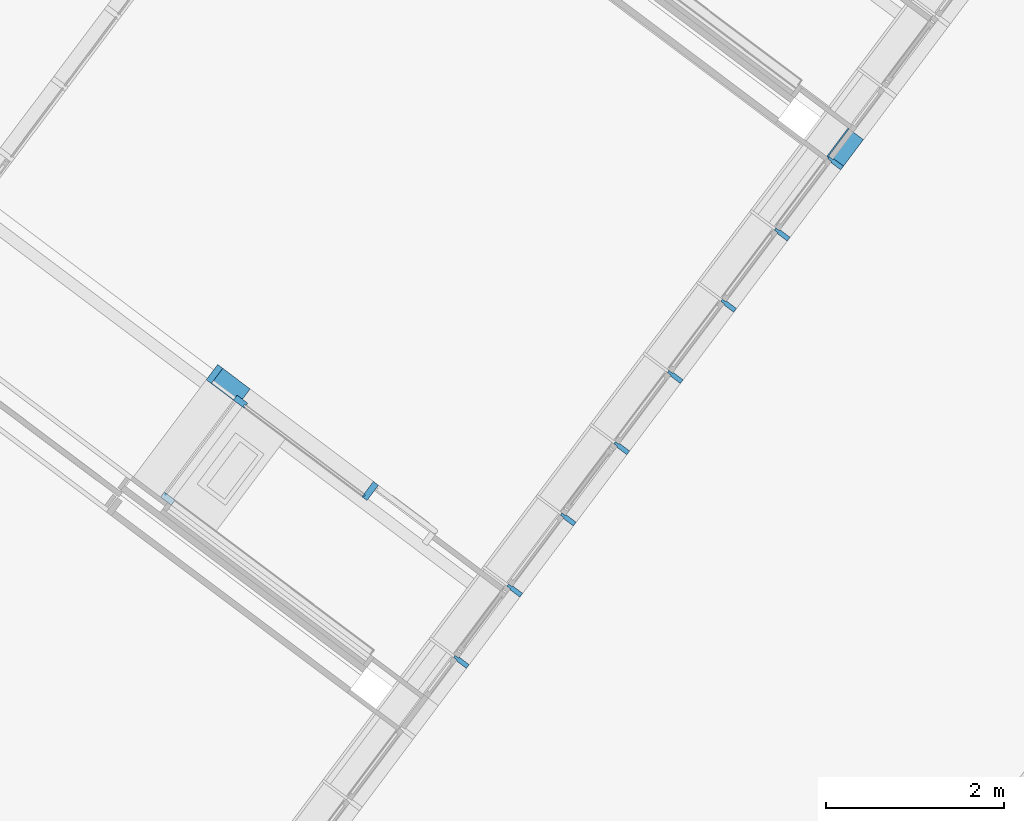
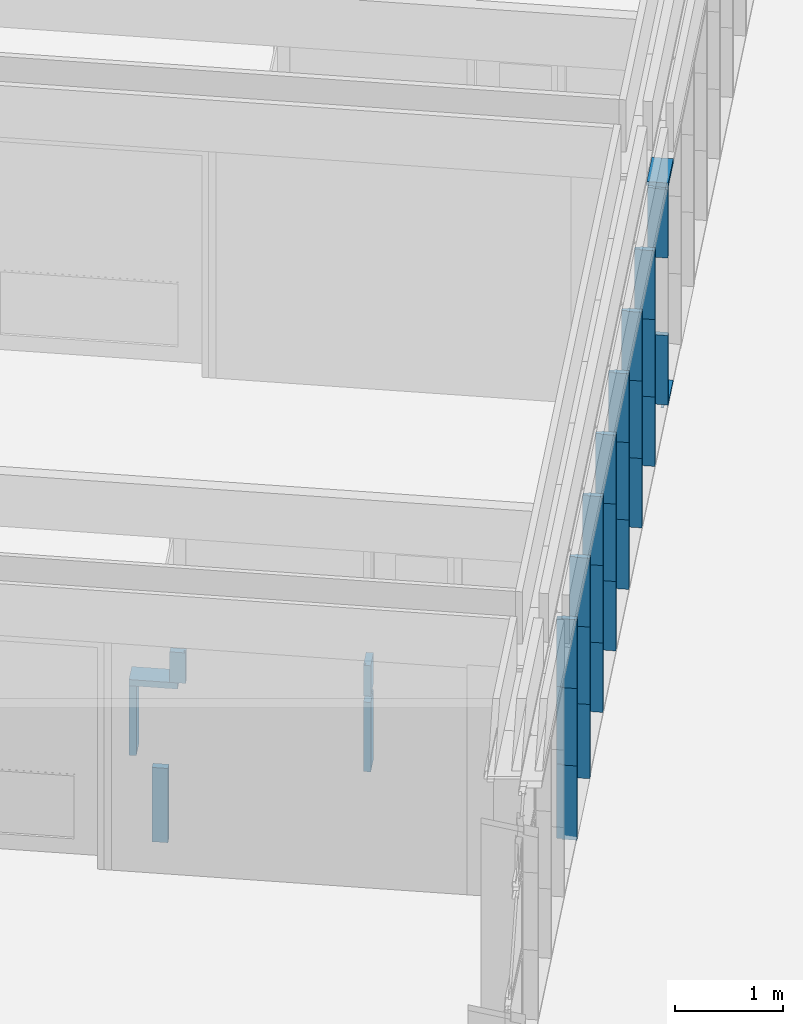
# One storey, part 82 of 243: 31 members, 3 elements without a shape of their own.
"""IFC2X3 building model written with IfcOpenShell, lengths in metres."""

from ifc_helpers import new_model, entity, si_unit, converted_unit, derived_unit, direction, frame, frame_2d, origin, place, context, subcontext, project, spatial, polyline, circle_curve, parameter, trimmed, segment, composite_curve, rectangle, outline, extrude, source, transform, mapped, material, type_object, type_shapes, element, aggregate, save


model = new_model("IFC2X3")

# Units and contexts
model_context = context("Model", 3, precision=1e-05, world=origin(), true_north=direction((6.123031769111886e-17, 1.0)))
body_context = subcontext(model_context, "Body", "Model", "MODEL_VIEW")
ifc_project = project(units=[si_unit("LENGTHUNIT", "METRE"), si_unit("AREAUNIT", "SQUARE_METRE"), si_unit("VOLUMEUNIT", "CUBIC_METRE"), converted_unit("PLANEANGLEUNIT", "DEGREE", entity("IfcRatioMeasure", 0.017453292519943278), si_unit("PLANEANGLEUNIT", "RADIAN"), dimensions=[0, 0, 0, 0, 0, 0, 0]), si_unit("MASSUNIT", "GRAM", prefix="KILO"), derived_unit("MASSDENSITYUNIT", [(si_unit("MASSUNIT", "GRAM", prefix="KILO"), 1), (si_unit("LENGTHUNIT", "METRE"), -3)]), derived_unit("IONCONCENTRATIONUNIT", [(si_unit("MASSUNIT", "GRAM", prefix="KILO"), 1), (si_unit("LENGTHUNIT", "METRE"), -3)]), derived_unit("MOMENTOFINERTIAUNIT", [(si_unit("LENGTHUNIT", "METRE"), 4)]), si_unit("TIMEUNIT", "SECOND"), si_unit("FREQUENCYUNIT", "HERTZ"), si_unit("THERMODYNAMICTEMPERATUREUNIT", "DEGREE_CELSIUS"), derived_unit("THERMALTRANSMITTANCEUNIT", [(si_unit("MASSUNIT", "GRAM", prefix="KILO"), 1), (si_unit("THERMODYNAMICTEMPERATUREUNIT", "KELVIN"), -1), (si_unit("TIMEUNIT", "SECOND"), -3)]), derived_unit("THERMALCONDUCTANCEUNIT", [(si_unit("MASSUNIT", "GRAM", prefix="KILO"), 1), (si_unit("THERMODYNAMICTEMPERATUREUNIT", "KELVIN"), -1), (si_unit("TIMEUNIT", "SECOND"), -3), (si_unit("LENGTHUNIT", "METRE"), 1)]), derived_unit("VOLUMETRICFLOWRATEUNIT", [(si_unit("LENGTHUNIT", "METRE"), 3), (si_unit("TIMEUNIT", "SECOND"), -1)]), derived_unit("MASSFLOWRATEUNIT", [(si_unit("MASSUNIT", "GRAM", prefix="KILO"), 1), (si_unit("TIMEUNIT", "SECOND"), -1)]), derived_unit("ROTATIONALFREQUENCYUNIT", [(si_unit("TIMEUNIT", "SECOND"), -1)]), si_unit("ELECTRICCURRENTUNIT", "AMPERE"), si_unit("ELECTRICVOLTAGEUNIT", "VOLT"), si_unit("POWERUNIT", "WATT"), si_unit("FORCEUNIT", "NEWTON", prefix="KILO"), si_unit("ILLUMINANCEUNIT", "LUX"), si_unit("LUMINOUSFLUXUNIT", "LUMEN"), si_unit("LUMINOUSINTENSITYUNIT", "CANDELA"), derived_unit("USERDEFINED", [(si_unit("MASSUNIT", "GRAM", prefix="KILO"), -1), (si_unit("LENGTHUNIT", "METRE"), -2), (si_unit("TIMEUNIT", "SECOND"), 3), (si_unit("LUMINOUSFLUXUNIT", "LUMEN"), 1)]), derived_unit("USERDEFINED", [(si_unit("MASSUNIT", "GRAM", prefix="KILO"), 1), (si_unit("TIMEUNIT", "SECOND"), -3), (si_unit("LENGTHUNIT", "METRE"), 3), (si_unit("ELECTRICCURRENTUNIT", "AMPERE"), -2)]), derived_unit("SOUNDPOWERUNIT", [(si_unit("MASSUNIT", "GRAM", prefix="KILO"), 1), (si_unit("TIMEUNIT", "SECOND"), -3), (si_unit("LENGTHUNIT", "METRE"), 2)]), derived_unit("SOUNDPRESSUREUNIT", [(si_unit("MASSUNIT", "GRAM", prefix="KILO"), 1), (si_unit("LENGTHUNIT", "METRE"), -1), (si_unit("TIMEUNIT", "SECOND"), -2)]), derived_unit("LINEARVELOCITYUNIT", [(si_unit("LENGTHUNIT", "METRE"), 1), (si_unit("TIMEUNIT", "SECOND"), -1)]), si_unit("PRESSUREUNIT", "PASCAL"), derived_unit("USERDEFINED", [(si_unit("MASSUNIT", "GRAM", prefix="KILO"), 1), (si_unit("LENGTHUNIT", "METRE"), -2), (si_unit("TIMEUNIT", "SECOND"), -2)]), derived_unit("LINEARFORCEUNIT", [(si_unit("MASSUNIT", "GRAM", prefix="KILO"), 1), (si_unit("TIMEUNIT", "SECOND"), -2)]), derived_unit("PLANARFORCEUNIT", [(si_unit("MASSUNIT", "GRAM", prefix="KILO"), 1), (si_unit("LENGTHUNIT", "METRE"), -1), (si_unit("TIMEUNIT", "SECOND"), -2)]), derived_unit("SPECIFICHEATCAPACITYUNIT", [(si_unit("THERMODYNAMICTEMPERATUREUNIT", "KELVIN"), -1), (si_unit("LENGTHUNIT", "METRE"), 2), (si_unit("TIMEUNIT", "SECOND"), -2)]), derived_unit("HEATINGVALUEUNIT", [(si_unit("LENGTHUNIT", "METRE"), 2), (si_unit("TIMEUNIT", "SECOND"), -2)]), derived_unit("VAPORPERMEABILITYUNIT", [(si_unit("LENGTHUNIT", "METRE"), -1), (si_unit("TIMEUNIT", "SECOND"), 1)]), derived_unit("DYNAMICVISCOSITYUNIT", [(si_unit("MASSUNIT", "GRAM", prefix="KILO"), 1), (si_unit("TIMEUNIT", "SECOND"), -1), (si_unit("LENGTHUNIT", "METRE"), -1)]), derived_unit("THERMALEXPANSIONCOEFFICIENTUNIT", [(si_unit("THERMODYNAMICTEMPERATUREUNIT", "KELVIN"), -1)]), derived_unit("MODULUSOFELASTICITYUNIT", [(si_unit("MASSUNIT", "GRAM", prefix="KILO"), 1), (si_unit("LENGTHUNIT", "METRE"), -1), (si_unit("TIMEUNIT", "SECOND"), -2)]), derived_unit("ISOTHERMALMOISTURECAPACITYUNIT", [(si_unit("LENGTHUNIT", "METRE"), 3), (si_unit("MASSUNIT", "GRAM", prefix="KILO"), -1)]), derived_unit("MOISTUREDIFFUSIVITYUNIT", [(si_unit("TIMEUNIT", "SECOND"), -1), (si_unit("LENGTHUNIT", "METRE"), 2)])], contexts=[model_context])

# Site, building, storey
site_placement = place(None, frame((0.0, 0.0, 235.0), z_axis=(0.0, 0.0, 1.0), x_axis=(-0.7996477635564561, 0.6004693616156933, 0.0)))
site = spatial("IfcSite", under=ifc_project, at=site_placement, Name="Default", CompositionType="ELEMENT")
building_placement = place(site_placement, origin())
building = spatial("IfcBuilding", under=site, at=building_placement, CompositionType="ELEMENT")
storey_placement = place(building_placement, origin())
storey = spatial("IfcBuildingStorey", under=building, at=storey_placement, Name="P0- Escola", CompositionType="ELEMENT", Elevation=0.0)

# Curtain wall, members
curtain_wall_type_1 = type_object("IfcCurtainWallType", Name="Muro cortina:MC- INT- k1", PredefinedType="NOTDEFINED")
curtain_wall_1_placement = place(storey_placement, origin())
curtain_wall_1 = element("IfcCurtainWall", 1, at=curtain_wall_1_placement, inside=storey, type_object=curtain_wall_type_1, Name="Muro cortina:MC- INT- k1", ObjectType="Muro cortina:MC- INT- k1")
ifc_material_1 = material(Name="_Fusta massisa- T1")
member_type_1 = type_object("IfcMemberType", Name="Montante rectangular:MC- Fusta- 21,4x7 cm- Neutre- Bany infantil", PredefinedType="MULLION", material=ifc_material_1)
shared_shape_1 = source(origin(), body_context, "Body", "SweptSolid", [
    extrude(rectangle(XDim=0.21400000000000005, YDim=0.06999999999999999, at=frame_2d((-5.551115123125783e-17, 0.0), x_axis=(1.0, 0.0))), frame((0.0, -0.08099999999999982, -0.7849999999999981), z_axis=(0.0, 0.0, 1.0), x_axis=(0.0, -1.0, 0.0)), (0.0, 0.0, 1.0), 0.7849999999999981),
])
type_shapes(member_type_1, [shared_shape_1])
member_1_placement = place(curtain_wall_1_placement, frame((7.804147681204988, -27.827191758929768, 0.0), z_axis=(0.0, 0.0, -1.0), x_axis=(-1.0, 0.0, 0.0)))
member_1 = element("IfcMember", 2, at=member_1_placement, type_object=member_type_1, material=ifc_material_1, Name="Montante rectangular:MC- Fusta- 21,4x7 cm- Neutre- Bany infantil", ObjectType="Montante rectangular:MC- Fusta- 21,4x7 cm- Neutre- Bany infantil", context=body_context, shape_type="MappedRepresentation", body=[
    mapped(shared_shape_1, transform((0.0, 0.0, 0.0), scale=1.0)),
])
member_type_2 = type_object("IfcMemberType", Name="Montante rectangular:MC- Fusta- 21,4x7 cm- Neutre- Bany infantil", PredefinedType="MULLION", material=ifc_material_1)
shared_shape_2 = source(origin(), body_context, "Body", "SweptSolid", [
    extrude(rectangle(XDim=0.21399999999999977, YDim=0.06999999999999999, at=frame_2d((5.551115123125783e-17, 0.0), x_axis=(1.0, 0.0))), frame((-0.034999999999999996, -0.08099999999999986, -0.7849999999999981), z_axis=(0.0, 0.0, 1.0), x_axis=(0.0, -1.0, 0.0)), (0.0, 0.0, 1.0), 0.7849999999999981),
])
type_shapes(member_type_2, [shared_shape_2])
member_2_placement = place(curtain_wall_1_placement, frame((10.025147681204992, -27.82719175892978, 0.7849999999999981)))
member_2 = element("IfcMember", 3, at=member_2_placement, type_object=member_type_2, material=ifc_material_1, Name="Montante rectangular:MC- Fusta- 21,4x7 cm- Neutre- Bany infantil", ObjectType="Montante rectangular:MC- Fusta- 21,4x7 cm- Neutre- Bany infantil", context=body_context, shape_type="MappedRepresentation", body=[
    mapped(shared_shape_2, transform((0.0, 0.0, 0.0), scale=1.0)),
])
member_type_3 = type_object("IfcMemberType", Name="Montante rectangular:MC- Fusta- 21,4x7 cm- Esquerra- Bany infantil", PredefinedType="MULLION", material=ifc_material_1)
shared_shape_3 = source(origin(), body_context, "Body", "SweptSolid", [
    extrude(outline(polyline([(-0.06649999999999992, -0.02249999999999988), (-0.05049999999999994, -0.02249999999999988), (-0.050499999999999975, -0.0024999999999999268), (-0.030499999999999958, -0.002499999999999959), (-0.030499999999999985, -0.022499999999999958), (0.14749999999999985, -0.022500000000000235), (0.14749999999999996, 0.04749999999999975), (-0.06650000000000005, 0.04750000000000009), (-0.06649999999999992, -0.02249999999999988)])), frame((-0.012500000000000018, -0.04049999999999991, -0.3450000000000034), z_axis=(0.0, 0.0, 1.0), x_axis=(0.0, -1.0, 0.0)), (0.0, 0.0, 1.0), 0.34500000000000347),
])
type_shapes(member_type_3, [shared_shape_3])
member_3_placement = place(curtain_wall_1_placement, frame((7.804147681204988, -27.827191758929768, 0.8549999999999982), z_axis=(0.0, 0.0, -1.0), x_axis=(-1.0, 0.0, 0.0)))
member_3 = element("IfcMember", 4, at=member_3_placement, type_object=member_type_3, material=ifc_material_1, Name="Montante rectangular:MC- Fusta- 21,4x7 cm- Esquerra- Bany infantil", ObjectType="Montante rectangular:MC- Fusta- 21,4x7 cm- Esquerra- Bany infantil", context=body_context, shape_type="MappedRepresentation", body=[
    mapped(shared_shape_3, transform((0.0, 0.0, 0.0), scale=1.0)),
])
member_type_4 = type_object("IfcMemberType", Name="Montante rectangular:MC- Fusta- 21,4x7 cm- Neutre- Bany infantil", PredefinedType="MULLION", material=ifc_material_1)
shared_shape_4 = source(origin(), body_context, "Body", "SweptSolid", [
    extrude(rectangle(XDim=0.21400000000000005, YDim=0.06999999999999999, at=frame_2d((-5.551115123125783e-17, 0.0), x_axis=(1.0, 0.0))), frame((0.0, -0.08099999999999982, -0.4550000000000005), z_axis=(0.0, 0.0, 1.0), x_axis=(0.0, -1.0, 0.0)), (0.0, 0.0, 1.0), 0.4550000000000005),
])
type_shapes(member_type_4, [shared_shape_4])
member_4_placement = place(curtain_wall_1_placement, frame((9.57014768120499, -27.82719175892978, 0.8199999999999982), z_axis=(-1.0, 0.0, 0.0), x_axis=(0.0, 0.0, 1.0)))
member_4 = element("IfcMember", 5, at=member_4_placement, type_object=member_type_4, material=ifc_material_1, Name="Montante rectangular:MC- Fusta- 21,4x7 cm- Neutre- Bany infantil", ObjectType="Montante rectangular:MC- Fusta- 21,4x7 cm- Neutre- Bany infantil", context=body_context, shape_type="MappedRepresentation", body=[
    mapped(shared_shape_4, transform((0.0, 0.0, 0.0), scale=1.0)),
])
member_type_5 = type_object("IfcMemberType", Name="Montante rectangular:PerfilBany-Dreta", PredefinedType="MULLION", material=ifc_material_1)
shared_shape_5 = source(origin(), body_context, "Body", "SweptSolid", [
    extrude(outline(polyline([(-0.03050000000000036, -0.1075), (0.0394999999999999, -0.1075), (0.0394999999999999, 0.04250000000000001), (0.0055000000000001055, 0.04250000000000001), (0.0055000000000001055, 0.022500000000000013), (-0.014499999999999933, 0.022500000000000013), (-0.014499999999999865, 0.04249999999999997), (-0.030499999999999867, 0.04249999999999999), (-0.03050000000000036, -0.1075)])), frame((0.03250000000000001, -0.0045000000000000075, -0.3450000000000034), z_axis=(0.0, 0.0, 1.0), x_axis=(0.0, -1.0, 0.0)), (0.0, 0.0, 1.0), 0.34500000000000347),
])
type_shapes(member_type_5, [shared_shape_5])
member_5_placement = place(curtain_wall_1_placement, frame((9.57014768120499, -27.82719175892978, 0.8549999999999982), z_axis=(0.0, 0.0, -1.0), x_axis=(-1.0, 0.0, 0.0)))
member_5 = element("IfcMember", 6, at=member_5_placement, type_object=member_type_5, material=ifc_material_1, Name="Montante rectangular:PerfilBany-Dreta", ObjectType="Montante rectangular:PerfilBany-Dreta", context=body_context, shape_type="MappedRepresentation", body=[
    mapped(shared_shape_5, transform((0.0, 0.0, 0.0), scale=1.0)),
])
aggregate(curtain_wall_1, [member_1, member_2, member_3, member_4, member_5])

# Curtain wall, member
curtain_wall_type_2 = type_object("IfcCurtainWallType", Name="Muro cortina:MC- INT- k1", PredefinedType="NOTDEFINED")
curtain_wall_2_placement = place(storey_placement, origin())
curtain_wall_2 = element("IfcCurtainWall", 7, at=curtain_wall_2_placement, inside=storey, type_object=curtain_wall_type_2, Name="Muro cortina:MC- INT- k1", ObjectType="Muro cortina:MC- INT- k1")
member_type_6 = type_object("IfcMemberType", Name="Montante rectangular:MC- Fusta- 15x7- Neutre", PredefinedType="MULLION", material=ifc_material_1)
shared_shape_6 = source(origin(), body_context, "Body", "SweptSolid", [
    extrude(rectangle(XDim=0.1499999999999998, YDim=0.06999999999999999, at=frame_2d((4.85722573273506e-17, 0.0), x_axis=(1.0, 0.0))), frame((-0.034999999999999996, -0.04899999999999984, -0.8399999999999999), z_axis=(0.0, 0.0, 1.0), x_axis=(0.0, -1.0, 0.0)), (0.0, 0.0, 1.0), 0.8399999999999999),
])
type_shapes(member_type_6, [shared_shape_6])
member_6_placement = place(curtain_wall_2_placement, frame((9.61914768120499, -26.440191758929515, 0.0), z_axis=(0.0, 0.0, -1.0), x_axis=(0.0, 1.0, 0.0)))
member_6 = element("IfcMember", 8, at=member_6_placement, type_object=member_type_6, material=ifc_material_1, Name="Montante rectangular:MC- Fusta- 15x7- Neutre", ObjectType="Montante rectangular:MC- Fusta- 15x7- Neutre", context=body_context, shape_type="MappedRepresentation", body=[
    mapped(shared_shape_6, transform((0.0, 0.0, 0.0), scale=1.0)),
])
aggregate(curtain_wall_2, [member_6])

# Curtain wall, members
curtain_wall_type_3 = type_object("IfcCurtainWallType", Name="Muro cortina:MC- EXT- MC2", PredefinedType="NOTDEFINED")
curtain_wall_3_placement = place(storey_placement, origin())
curtain_wall_3 = element("IfcCurtainWall", 9, at=curtain_wall_3_placement, inside=storey, type_object=curtain_wall_type_3, Name="Muro cortina:MC- EXT- MC2", ObjectType="Muro cortina:MC- EXT- MC2")
ifc_material_2 = material(Name="_Alumini- T1- Perfil")
member_type_7 = type_object("IfcMemberType", Name="Montante rectangular:MC- Alu- 140x52,5 cm- Fa patis- Centre", PredefinedType="MULLION", material=ifc_material_2)
shared_shape_7 = source(origin(), body_context, "Body", "SweptSolid", [
    extrude(outline(polyline([(-0.11699999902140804, -0.026250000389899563), (0.021999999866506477, -0.026250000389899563), (0.021999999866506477, -0.01500000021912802), (0.07299999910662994, -0.01500000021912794), (0.07299999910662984, 0.015000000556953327), (0.02200000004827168, 0.015000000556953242), (0.02200000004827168, 0.026250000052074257), (-0.11699999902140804, 0.026250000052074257), (-0.11699999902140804, -0.026250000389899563)])), frame((0.0, 0.022999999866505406, -0.8400000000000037), z_axis=(0.0, 0.0, 1.0), x_axis=(0.0, -1.0, 0.0)), (0.0, 0.0, 1.0), 0.8400000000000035),
])
type_shapes(member_type_7, [shared_shape_7])
member_7_placement = place(curtain_wall_3_placement, frame((5.885147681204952, -26.99019175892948, -0.02), z_axis=(0.0, 0.0, -1.0), x_axis=(0.0, -1.0, 0.0)))
member_7 = element("IfcMember", 10, at=member_7_placement, type_object=member_type_7, material=ifc_material_2, Name="Montante rectangular:MC- Alu- 140x52,5 cm- Fa patis- Centre", ObjectType="Montante rectangular:MC- Alu- 140x52,5 cm- Fa patis- Centre", context=body_context, shape_type="MappedRepresentation", body=[
    mapped(shared_shape_7, transform((0.0, 0.0, 0.0), scale=1.0)),
])
member_8_placement = place(curtain_wall_3_placement, frame((5.885147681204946, -27.990191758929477, -0.02), z_axis=(0.0, 0.0, -1.0), x_axis=(0.0, -1.0, 0.0)))
member_8 = element("IfcMember", 11, at=member_8_placement, type_object=member_type_7, material=ifc_material_2, Name="Montante rectangular:MC- Alu- 140x52,5 cm- Fa patis- Centre", ObjectType="Montante rectangular:MC- Alu- 140x52,5 cm- Fa patis- Centre", context=body_context, shape_type="MappedRepresentation", body=[
    mapped(shared_shape_7, transform((0.0, 0.0, 0.0), scale=1.0)),
])
member_type_8 = type_object("IfcMemberType", Name="Montante rectangular:MC- Alu- 140x52,5 cm- Fa patis- Centre", PredefinedType="MULLION", material=ifc_material_2)
shared_shape_8 = source(origin(), body_context, "Body", "SweptSolid", [
    extrude(outline(polyline([(-0.11699999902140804, -0.026250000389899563), (0.021999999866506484, -0.026250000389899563), (0.021999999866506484, -0.01500000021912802), (0.07299999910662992, -0.01500000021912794), (0.07299999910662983, 0.015000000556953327), (0.022000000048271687, 0.015000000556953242), (0.022000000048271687, 0.026250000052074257), (-0.11699999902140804, 0.026250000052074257), (-0.11699999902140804, -0.026250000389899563)])), frame((0.0, 0.022999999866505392, -0.7850000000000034), z_axis=(0.0, 0.0, 1.0), x_axis=(0.0, -1.0, 0.0)), (0.0, 0.0, 1.0), 0.7850000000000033),
])
type_shapes(member_type_8, [shared_shape_8])
member_9_placement = place(curtain_wall_3_placement, frame((5.88514768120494, -28.990191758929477, 0.035000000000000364), z_axis=(0.0, 0.0, -1.0), x_axis=(0.0, -1.0, 0.0)))
member_9 = element("IfcMember", 12, at=member_9_placement, type_object=member_type_8, material=ifc_material_2, Name="Montante rectangular:MC- Alu- 140x52,5 cm- Fa patis- Centre", ObjectType="Montante rectangular:MC- Alu- 140x52,5 cm- Fa patis- Centre", context=body_context, shape_type="MappedRepresentation", body=[
    mapped(shared_shape_8, transform((0.0, 0.0, 0.0), scale=1.0)),
])
member_10_placement = place(curtain_wall_3_placement, frame((5.885147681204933, -29.990191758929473, 0.035000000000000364), z_axis=(0.0, 0.0, -1.0), x_axis=(0.0, -1.0, 0.0)))
member_10 = element("IfcMember", 13, at=member_10_placement, type_object=member_type_8, material=ifc_material_2, Name="Montante rectangular:MC- Alu- 140x52,5 cm- Fa patis- Centre", ObjectType="Montante rectangular:MC- Alu- 140x52,5 cm- Fa patis- Centre", context=body_context, shape_type="MappedRepresentation", body=[
    mapped(shared_shape_8, transform((0.0, 0.0, 0.0), scale=1.0)),
])
member_11_placement = place(curtain_wall_3_placement, frame((5.885147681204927, -30.990191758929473, 0.035000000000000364), z_axis=(0.0, 0.0, -1.0), x_axis=(0.0, -1.0, 0.0)))
member_11 = element("IfcMember", 14, at=member_11_placement, type_object=member_type_8, material=ifc_material_2, Name="Montante rectangular:MC- Alu- 140x52,5 cm- Fa patis- Centre", ObjectType="Montante rectangular:MC- Alu- 140x52,5 cm- Fa patis- Centre", context=body_context, shape_type="MappedRepresentation", body=[
    mapped(shared_shape_8, transform((0.0, 0.0, 0.0), scale=1.0)),
])
member_12_placement = place(curtain_wall_3_placement, frame((5.885147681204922, -31.990191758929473, 0.035000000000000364), z_axis=(0.0, 0.0, -1.0), x_axis=(0.0, -1.0, 0.0)))
member_12 = element("IfcMember", 15, at=member_12_placement, type_object=member_type_8, material=ifc_material_2, Name="Montante rectangular:MC- Alu- 140x52,5 cm- Fa patis- Centre", ObjectType="Montante rectangular:MC- Alu- 140x52,5 cm- Fa patis- Centre", context=body_context, shape_type="MappedRepresentation", body=[
    mapped(shared_shape_8, transform((0.0, 0.0, 0.0), scale=1.0)),
])
member_13_placement = place(curtain_wall_3_placement, frame((5.8851476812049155, -32.99019175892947, 0.035000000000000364), z_axis=(0.0, 0.0, -1.0), x_axis=(0.0, -1.0, 0.0)))
member_13 = element("IfcMember", 16, at=member_13_placement, type_object=member_type_8, material=ifc_material_2, Name="Montante rectangular:MC- Alu- 140x52,5 cm- Fa patis- Centre", ObjectType="Montante rectangular:MC- Alu- 140x52,5 cm- Fa patis- Centre", context=body_context, shape_type="MappedRepresentation", body=[
    mapped(shared_shape_8, transform((0.0, 0.0, 0.0), scale=1.0)),
])
member_14_placement = place(curtain_wall_3_placement, frame((5.88514768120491, -33.99019175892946, 0.035000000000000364), z_axis=(0.0, 0.0, -1.0), x_axis=(0.0, -1.0, 0.0)))
member_14 = element("IfcMember", 17, at=member_14_placement, type_object=member_type_8, material=ifc_material_2, Name="Montante rectangular:MC- Alu- 140x52,5 cm- Fa patis- Centre", ObjectType="Montante rectangular:MC- Alu- 140x52,5 cm- Fa patis- Centre", context=body_context, shape_type="MappedRepresentation", body=[
    mapped(shared_shape_8, transform((0.0, 0.0, 0.0), scale=1.0)),
])
member_type_9 = type_object("IfcMemberType", Name="Montante rectangular:MC- Alu- 140x52,5 cm- Fa patis- inferior", PredefinedType="MULLION", material=ifc_material_2)
shared_shape_9 = source(origin(), body_context, "Body", "SweptSolid", [
    extrude(outline(composite_curve([segment(polyline([(0.1278672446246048, -0.0258671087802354), (0.14416724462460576, -0.025867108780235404)]), True, "CONTINUOUS"), segment(polyline([(0.14416724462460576, -0.025867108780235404), (0.1441672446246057, 0.009132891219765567)]), True, "CONTINUOUS"), segment(polyline([(0.1441672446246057, 0.009132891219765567), (0.06786724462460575, 0.009132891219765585)]), True, "CONTINUOUS"), segment(polyline([(0.06786724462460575, 0.009132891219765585), (0.06786724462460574, -0.021159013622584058)]), True, "CONTINUOUS"), segment(polyline([(0.06786724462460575, -0.02115901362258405), (-0.030132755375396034, -0.012332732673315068)]), True, "CONTINUOUS"), segment(polyline([(-0.03013275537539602, -0.012332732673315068), (-0.030132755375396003, 0.027132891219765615)]), True, "CONTINUOUS"), segment(polyline([(-0.030132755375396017, 0.02713289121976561), (-0.0021327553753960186, 0.0271328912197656)]), True, "CONTINUOUS"), segment(polyline([(-0.0021327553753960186, 0.027132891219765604), (-0.0021327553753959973, 0.029132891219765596)]), True, "CONTINUOUS"), segment(polyline([(-0.0021327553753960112, 0.029132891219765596), (-0.032132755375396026, 0.029132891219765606)]), True, "CONTINUOUS"), segment(polyline([(-0.032132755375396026, 0.029132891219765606), (-0.03213275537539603, -0.012152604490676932)]), True, "CONTINUOUS"), segment(polyline([(-0.03213275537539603, -0.012152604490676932), (-0.0701327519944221, -0.008730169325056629)]), True, "CONTINUOUS"), segment(polyline([(-0.0701327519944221, -0.008730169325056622), (-0.0701327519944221, 0.005766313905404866)]), True, "CONTINUOUS"), segment(trimmed(circle_curve(frame_2d((-0.0696327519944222, 0.005766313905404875), x_axis=(-1.0, 0.0)), 0.0004999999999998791), [parameter(269.999999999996)], [parameter(0.0)], True, "PARAMETER"), False, "CONTINUOUS"), segment(polyline([(-0.0696327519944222, 0.00626631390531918), (-0.06213275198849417, 0.006266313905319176)]), True, "CONTINUOUS"), segment(polyline([(-0.06213275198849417, 0.006266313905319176), (-0.06213275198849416, 0.008266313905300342)]), True, "CONTINUOUS"), segment(polyline([(-0.06213275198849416, 0.008266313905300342), (-0.07013275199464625, 0.008266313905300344)]), True, "CONTINUOUS"), segment(trimmed(circle_curve(frame_2d((-0.07013275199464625, 0.006266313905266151), x_axis=(0.0, 1.0)), 0.0020000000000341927), [parameter(0.0)], [parameter(90.00000002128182)], True, "PARAMETER"), True, "CONTINUOUS"), segment(polyline([(-0.07213275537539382, 0.006266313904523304), (-0.07213275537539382, -0.008730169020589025)]), True, "CONTINUOUS"), segment(trimmed(circle_curve(frame_2d((-0.07013275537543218, -0.008730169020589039), x_axis=(-1.0, 0.0)), 0.0019999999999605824), [parameter(0.0)], [parameter(84.85359280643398)], True, "PARAMETER"), True, "CONTINUOUS"), segment(polyline([(-0.07031215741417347, -0.01072210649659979), (0.06786724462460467, -0.023167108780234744)]), True, "CONTINUOUS"), segment(polyline([(0.06786724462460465, -0.023167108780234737), (0.12786724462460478, -0.023167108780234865)]), True, "CONTINUOUS"), segment(polyline([(0.12786724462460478, -0.023167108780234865), (0.1278672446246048, -0.0258671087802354)]), True, "CONTINUOUS")], self_intersect=False)), frame((-0.029132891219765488, 0.06786724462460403, -0.39785043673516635), z_axis=(0.0, 0.0, 1.0), x_axis=(0.0, -1.0, 0.0)), (0.0, 0.0, 1.0), 0.39785043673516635),
])
type_shapes(member_type_9, [shared_shape_9])
member_15_placement = place(curtain_wall_3_placement, frame((5.88514768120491, -33.99019175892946, -0.02), z_axis=(0.0, 1.0, 0.0), x_axis=(0.0, 0.0, -1.0)))
member_15 = element("IfcMember", 18, at=member_15_placement, type_object=member_type_9, material=ifc_material_2, Name="Montante rectangular:MC- Alu- 140x52,5 cm- Fa patis- inferior", ObjectType="Montante rectangular:MC- Alu- 140x52,5 cm- Fa patis- inferior", context=body_context, shape_type="MappedRepresentation", body=[
    mapped(shared_shape_9, transform((0.0, 0.0, 0.0), scale=1.0)),
])
member_type_10 = type_object("IfcMemberType", Name="Montante rectangular:MC- Alu- 140x52,5 cm- Fa patis- Superior", PredefinedType="MULLION", material=ifc_material_2)
shared_shape_10 = source(origin(), body_context, "Body", "SweptSolid", [
    extrude(outline(polyline([(-0.11366666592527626, -0.021249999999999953), (0.026333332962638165, -0.021249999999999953), (0.026333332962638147, -0.010000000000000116), (0.0873333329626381, -0.010000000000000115), (0.0873333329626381, 0.03125000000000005), (-0.11366666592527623, 0.031250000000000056), (-0.11366666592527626, -0.021249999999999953)])), frame((-0.031250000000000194, 0.02733333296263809, -0.3978504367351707), z_axis=(0.0, 0.0, 1.0), x_axis=(0.0, -1.0, 0.0)), (0.0, 0.0, 1.0), 0.3978504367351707),
])
type_shapes(member_type_10, [shared_shape_10])
member_16_placement = place(curtain_wall_3_placement, frame((5.8851476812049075, -34.38804219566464, 2.525), z_axis=(0.0, -1.0, 0.0), x_axis=(0.0, 0.0, 1.0)))
member_16 = element("IfcMember", 19, at=member_16_placement, type_object=member_type_10, material=ifc_material_2, Name="Montante rectangular:MC- Alu- 140x52,5 cm- Fa patis- Superior", ObjectType="Montante rectangular:MC- Alu- 140x52,5 cm- Fa patis- Superior", context=body_context, shape_type="MappedRepresentation", body=[
    mapped(shared_shape_10, transform((0.0, 0.0, 0.0), scale=1.0)),
])
member_type_11 = type_object("IfcMemberType", Name="Montante rectangular:MC- Alu- 140x52,5 cm- Fa patis- Centre", PredefinedType="MULLION", material=ifc_material_2)
shared_shape_11 = source(origin(), body_context, "Body", "SweptSolid", [
    extrude(outline(polyline([(-0.11699999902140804, -0.026250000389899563), (0.021999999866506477, -0.026250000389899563), (0.021999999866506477, -0.01500000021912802), (0.07299999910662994, -0.01500000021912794), (0.07299999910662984, 0.015000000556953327), (0.02200000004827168, 0.015000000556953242), (0.02200000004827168, 0.026250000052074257), (-0.11699999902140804, 0.026250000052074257), (-0.11699999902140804, -0.026250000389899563)])), frame((0.0, 0.022999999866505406, -0.7774999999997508), z_axis=(0.0, 0.0, 1.0), x_axis=(0.0, -1.0, 0.0)), (0.0, 0.0, 1.0), 0.777499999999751),
])
type_shapes(member_type_11, [shared_shape_11])
member_17_placement = place(curtain_wall_3_placement, frame((5.885147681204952, -26.99019175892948, 1.695000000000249), z_axis=(0.0, 0.0, -1.0), x_axis=(0.0, -1.0, 0.0)))
member_17 = element("IfcMember", 20, at=member_17_placement, type_object=member_type_11, material=ifc_material_2, Name="Montante rectangular:MC- Alu- 140x52,5 cm- Fa patis- Centre", ObjectType="Montante rectangular:MC- Alu- 140x52,5 cm- Fa patis- Centre", context=body_context, shape_type="MappedRepresentation", body=[
    mapped(shared_shape_11, transform((0.0, 0.0, 0.0), scale=1.0)),
])
member_18_placement = place(curtain_wall_3_placement, frame((5.885147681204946, -27.990191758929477, 1.695000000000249), z_axis=(0.0, 0.0, -1.0), x_axis=(0.0, -1.0, 0.0)))
member_18 = element("IfcMember", 21, at=member_18_placement, type_object=member_type_11, material=ifc_material_2, Name="Montante rectangular:MC- Alu- 140x52,5 cm- Fa patis- Centre", ObjectType="Montante rectangular:MC- Alu- 140x52,5 cm- Fa patis- Centre", context=body_context, shape_type="MappedRepresentation", body=[
    mapped(shared_shape_11, transform((0.0, 0.0, 0.0), scale=1.0)),
])
member_19_placement = place(curtain_wall_3_placement, frame((5.88514768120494, -28.990191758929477, 1.695000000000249), z_axis=(0.0, 0.0, -1.0), x_axis=(0.0, -1.0, 0.0)))
member_19 = element("IfcMember", 22, at=member_19_placement, type_object=member_type_11, material=ifc_material_2, Name="Montante rectangular:MC- Alu- 140x52,5 cm- Fa patis- Centre", ObjectType="Montante rectangular:MC- Alu- 140x52,5 cm- Fa patis- Centre", context=body_context, shape_type="MappedRepresentation", body=[
    mapped(shared_shape_11, transform((0.0, 0.0, 0.0), scale=1.0)),
])
member_20_placement = place(curtain_wall_3_placement, frame((5.885147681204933, -29.990191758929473, 1.695000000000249), z_axis=(0.0, 0.0, -1.0), x_axis=(0.0, -1.0, 0.0)))
member_20 = element("IfcMember", 23, at=member_20_placement, type_object=member_type_11, material=ifc_material_2, Name="Montante rectangular:MC- Alu- 140x52,5 cm- Fa patis- Centre", ObjectType="Montante rectangular:MC- Alu- 140x52,5 cm- Fa patis- Centre", context=body_context, shape_type="MappedRepresentation", body=[
    mapped(shared_shape_11, transform((0.0, 0.0, 0.0), scale=1.0)),
])
member_21_placement = place(curtain_wall_3_placement, frame((5.885147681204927, -30.990191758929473, 1.695000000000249), z_axis=(0.0, 0.0, -1.0), x_axis=(0.0, -1.0, 0.0)))
member_21 = element("IfcMember", 24, at=member_21_placement, type_object=member_type_11, material=ifc_material_2, Name="Montante rectangular:MC- Alu- 140x52,5 cm- Fa patis- Centre", ObjectType="Montante rectangular:MC- Alu- 140x52,5 cm- Fa patis- Centre", context=body_context, shape_type="MappedRepresentation", body=[
    mapped(shared_shape_11, transform((0.0, 0.0, 0.0), scale=1.0)),
])
member_22_placement = place(curtain_wall_3_placement, frame((5.885147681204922, -31.99019175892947, 1.695000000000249), z_axis=(0.0, 0.0, -1.0), x_axis=(0.0, -1.0, 0.0)))
member_22 = element("IfcMember", 25, at=member_22_placement, type_object=member_type_11, material=ifc_material_2, Name="Montante rectangular:MC- Alu- 140x52,5 cm- Fa patis- Centre", ObjectType="Montante rectangular:MC- Alu- 140x52,5 cm- Fa patis- Centre", context=body_context, shape_type="MappedRepresentation", body=[
    mapped(shared_shape_11, transform((0.0, 0.0, 0.0), scale=1.0)),
])
member_23_placement = place(curtain_wall_3_placement, frame((5.8851476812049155, -32.99019175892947, 1.695000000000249), z_axis=(0.0, 0.0, -1.0), x_axis=(0.0, -1.0, 0.0)))
member_23 = element("IfcMember", 26, at=member_23_placement, type_object=member_type_11, material=ifc_material_2, Name="Montante rectangular:MC- Alu- 140x52,5 cm- Fa patis- Centre", ObjectType="Montante rectangular:MC- Alu- 140x52,5 cm- Fa patis- Centre", context=body_context, shape_type="MappedRepresentation", body=[
    mapped(shared_shape_11, transform((0.0, 0.0, 0.0), scale=1.0)),
])
member_24_placement = place(curtain_wall_3_placement, frame((5.88514768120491, -33.99019175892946, 1.6950000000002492), z_axis=(0.0, 0.0, -1.0), x_axis=(0.0, -1.0, 0.0)))
member_24 = element("IfcMember", 27, at=member_24_placement, type_object=member_type_11, material=ifc_material_2, Name="Montante rectangular:MC- Alu- 140x52,5 cm- Fa patis- Centre", ObjectType="Montante rectangular:MC- Alu- 140x52,5 cm- Fa patis- Centre", context=body_context, shape_type="MappedRepresentation", body=[
    mapped(shared_shape_11, transform((0.0, 0.0, 0.0), scale=1.0)),
])
member_type_12 = type_object("IfcMemberType", Name="Montante rectangular:MC- Alu- 140x52,5 cm- Fa patis- Centre", PredefinedType="MULLION", material=ifc_material_2)
shared_shape_12 = source(origin(), body_context, "Body", "SweptSolid", [
    extrude(outline(polyline([(-0.11699999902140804, -0.026250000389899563), (0.021999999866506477, -0.026250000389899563), (0.021999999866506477, -0.01500000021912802), (0.07299999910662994, -0.01500000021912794), (0.07299999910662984, 0.015000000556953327), (0.02200000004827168, 0.015000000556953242), (0.02200000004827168, 0.026250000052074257), (-0.11699999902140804, 0.026250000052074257), (-0.11699999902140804, -0.026250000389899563)])), frame((0.0, 0.022999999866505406, -0.8750000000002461), z_axis=(0.0, 0.0, 1.0), x_axis=(0.0, -1.0, 0.0)), (0.0, 0.0, 1.0), 0.8750000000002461),
])
type_shapes(member_type_12, [shared_shape_12])
member_25_placement = place(curtain_wall_3_placement, frame((5.885147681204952, -26.99019175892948, 0.8199999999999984), z_axis=(0.0, 0.0, -1.0), x_axis=(0.0, -1.0, 0.0)))
member_25 = element("IfcMember", 28, at=member_25_placement, type_object=member_type_12, material=ifc_material_2, Name="Montante rectangular:MC- Alu- 140x52,5 cm- Fa patis- Centre", ObjectType="Montante rectangular:MC- Alu- 140x52,5 cm- Fa patis- Centre", context=body_context, shape_type="MappedRepresentation", body=[
    mapped(shared_shape_12, transform((0.0, 0.0, 0.0), scale=1.0)),
])
member_26_placement = place(curtain_wall_3_placement, frame((5.885147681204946, -27.990191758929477, 0.8199999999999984), z_axis=(0.0, 0.0, -1.0), x_axis=(0.0, -1.0, 0.0)))
member_26 = element("IfcMember", 29, at=member_26_placement, type_object=member_type_12, material=ifc_material_2, Name="Montante rectangular:MC- Alu- 140x52,5 cm- Fa patis- Centre", ObjectType="Montante rectangular:MC- Alu- 140x52,5 cm- Fa patis- Centre", context=body_context, shape_type="MappedRepresentation", body=[
    mapped(shared_shape_12, transform((0.0, 0.0, 0.0), scale=1.0)),
])
member_27_placement = place(curtain_wall_3_placement, frame((5.88514768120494, -28.990191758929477, 0.8199999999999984), z_axis=(0.0, 0.0, -1.0), x_axis=(0.0, -1.0, 0.0)))
member_27 = element("IfcMember", 30, at=member_27_placement, type_object=member_type_12, material=ifc_material_2, Name="Montante rectangular:MC- Alu- 140x52,5 cm- Fa patis- Centre", ObjectType="Montante rectangular:MC- Alu- 140x52,5 cm- Fa patis- Centre", context=body_context, shape_type="MappedRepresentation", body=[
    mapped(shared_shape_12, transform((0.0, 0.0, 0.0), scale=1.0)),
])
member_28_placement = place(curtain_wall_3_placement, frame((5.885147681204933, -29.990191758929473, 0.8199999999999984), z_axis=(0.0, 0.0, -1.0), x_axis=(0.0, -1.0, 0.0)))
member_28 = element("IfcMember", 31, at=member_28_placement, type_object=member_type_12, material=ifc_material_2, Name="Montante rectangular:MC- Alu- 140x52,5 cm- Fa patis- Centre", ObjectType="Montante rectangular:MC- Alu- 140x52,5 cm- Fa patis- Centre", context=body_context, shape_type="MappedRepresentation", body=[
    mapped(shared_shape_12, transform((0.0, 0.0, 0.0), scale=1.0)),
])
member_29_placement = place(curtain_wall_3_placement, frame((5.885147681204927, -30.990191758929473, 0.8199999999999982), z_axis=(0.0, 0.0, -1.0), x_axis=(0.0, -1.0, 0.0)))
member_29 = element("IfcMember", 32, at=member_29_placement, type_object=member_type_12, material=ifc_material_2, Name="Montante rectangular:MC- Alu- 140x52,5 cm- Fa patis- Centre", ObjectType="Montante rectangular:MC- Alu- 140x52,5 cm- Fa patis- Centre", context=body_context, shape_type="MappedRepresentation", body=[
    mapped(shared_shape_12, transform((0.0, 0.0, 0.0), scale=1.0)),
])
member_30_placement = place(curtain_wall_3_placement, frame((5.885147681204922, -31.99019175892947, 0.8199999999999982), z_axis=(0.0, 0.0, -1.0), x_axis=(0.0, -1.0, 0.0)))
member_30 = element("IfcMember", 33, at=member_30_placement, type_object=member_type_12, material=ifc_material_2, Name="Montante rectangular:MC- Alu- 140x52,5 cm- Fa patis- Centre", ObjectType="Montante rectangular:MC- Alu- 140x52,5 cm- Fa patis- Centre", context=body_context, shape_type="MappedRepresentation", body=[
    mapped(shared_shape_12, transform((0.0, 0.0, 0.0), scale=1.0)),
])
member_31_placement = place(curtain_wall_3_placement, frame((5.8851476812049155, -32.99019175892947, 0.8199999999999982), z_axis=(0.0, 0.0, -1.0), x_axis=(0.0, -1.0, 0.0)))
member_31 = element("IfcMember", 34, at=member_31_placement, type_object=member_type_12, material=ifc_material_2, Name="Montante rectangular:MC- Alu- 140x52,5 cm- Fa patis- Centre", ObjectType="Montante rectangular:MC- Alu- 140x52,5 cm- Fa patis- Centre", context=body_context, shape_type="MappedRepresentation", body=[
    mapped(shared_shape_12, transform((0.0, 0.0, 0.0), scale=1.0)),
])
aggregate(curtain_wall_3, [member_7, member_8, member_9, member_10, member_11, member_12, member_13, member_15, member_14, member_16, member_17, member_18, member_19, member_20, member_21, member_22, member_23, member_24, member_25, member_26, member_27, member_28, member_29, member_30, member_31])

save(model, "model.ifc")
